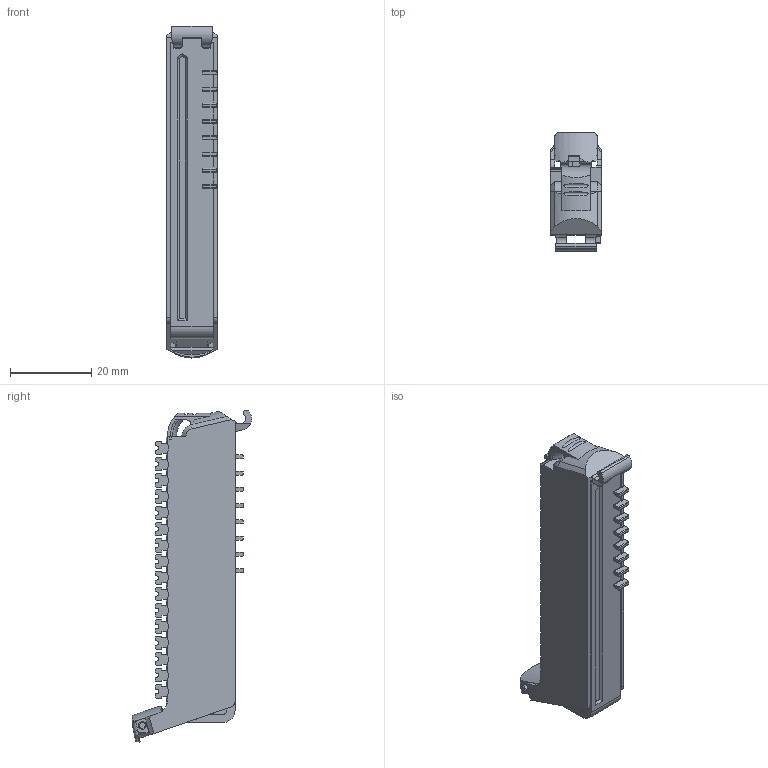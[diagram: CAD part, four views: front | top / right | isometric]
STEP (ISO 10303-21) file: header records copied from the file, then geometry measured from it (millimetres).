
FILE_DESCRIPTION((''),'2;1');
FILE_NAME('2036552','2024-05-02T07:42:32',('l.merz'),(''),'CREO PARAMETRIC BY PTC INC, 2019292','CREO PARAMETRIC BY PTC INC, 2019292','');
FILE_SCHEMA(('AUTOMOTIVE_DESIGN { 1 0 10303 214 1 1 1 1 }'));
Length unit declared in the file: millimetre
Products named in the file (1): 2036552
Bounding box: 12.5 x 29.39 x 81.78 mm (x, y, z)
Volume: 15176.5 mm3; surface area: 8736.6 mm2
Topology: 1 solids, 1 shells, 1743 faces, 4977 edges, 3277 vertices
Faces by surface type: plane 1234, cylinder 314, bspline 101, extrusion 50, cone 39, torus 5
Entity records: 91990 total; most frequent: CARTESIAN_POINT 18951, ORIENTED_EDGE 9954, DIRECTION 8501, PRESENTATION_STYLE_ASSIGNMENT 6772, STYLED_ITEM 5029, CURVE_STYLE 5028, EDGE_CURVE 4977, VECTOR 3735
